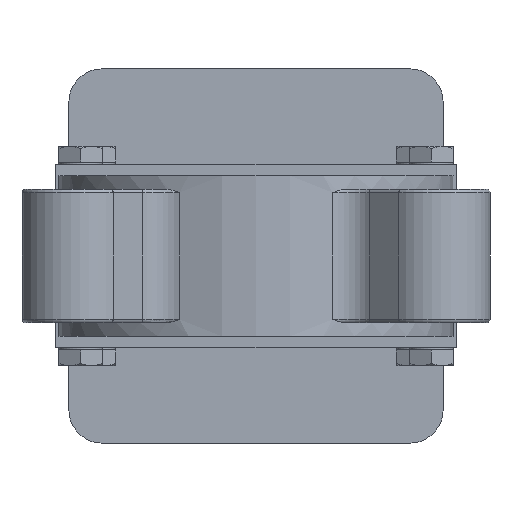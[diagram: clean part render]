
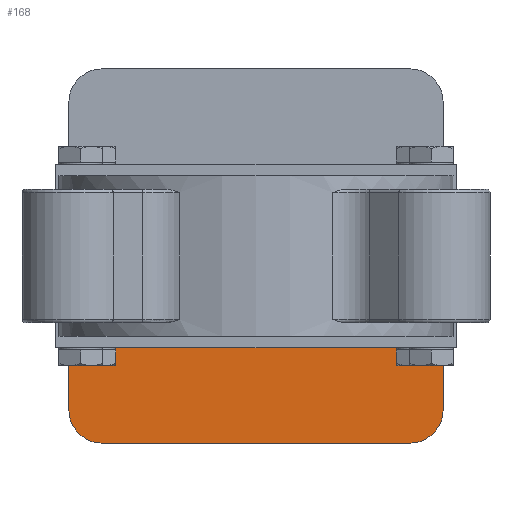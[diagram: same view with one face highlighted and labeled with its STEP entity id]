
A CAD part, front view. The second image highlights one B-rep face of the part: STEP entity #168.
In plain terms, the highlighted planar face has unit normal (0, -1, 0).
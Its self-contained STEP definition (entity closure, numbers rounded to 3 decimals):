
#168=ADVANCED_FACE('',(#6267),#6269,.F.);
#6267=FACE_BOUND('',#6268,.T.);
#6268=EDGE_LOOP('',(#11121,#11122,#11123,#11124,#11125,#11126));
#6269=PLANE('',#6270);
#6270=AXIS2_PLACEMENT_3D('',#6271,#6272,#6273);
#6271=CARTESIAN_POINT('',(0.,261.,0.));
#6272=DIRECTION('',(0.,1.,0.));
#6273=DIRECTION('',(0.,0.,1.));
#11121=ORIENTED_EDGE('',*,*,#14907,.T.);
#11122=ORIENTED_EDGE('',*,*,#14961,.F.);
#11123=ORIENTED_EDGE('',*,*,#14962,.F.);
#11124=ORIENTED_EDGE('',*,*,#14963,.F.);
#11125=ORIENTED_EDGE('',*,*,#14964,.F.);
#11126=ORIENTED_EDGE('',*,*,#14965,.F.);
#14907=EDGE_CURVE('',#16610,#16611,#16612,.T.);
#14961=EDGE_CURVE('',#16718,#16611,#16719,.T.);
#14962=EDGE_CURVE('',#16720,#16718,#16721,.F.);
#14963=EDGE_CURVE('',#16722,#16720,#16723,.T.);
#14964=EDGE_CURVE('',#16724,#16722,#16725,.F.);
#14965=EDGE_CURVE('',#16610,#16724,#16726,.T.);
#16610=VERTEX_POINT('',#19421);
#16611=VERTEX_POINT('',#19422);
#16612=LINE('',#19423,#19424);
#16718=VERTEX_POINT('',#19665);
#16719=LINE('',#19666,#19667);
#16720=VERTEX_POINT('',#19669);
#16721=CIRCLE('',#19670,10.);
#16722=VERTEX_POINT('',#19674);
#16723=LINE('',#19675,#19676);
#16724=VERTEX_POINT('',#19678);
#16725=CIRCLE('',#19679,10.);
#16726=LINE('',#19683,#19684);
#19421=CARTESIAN_POINT('',(56.,261.,-27.5));
#19422=CARTESIAN_POINT('',(-56.,261.,-27.5));
#19423=CARTESIAN_POINT('',(56.,261.,-27.5));
#19424=VECTOR('',#19425,1.);
#19425=DIRECTION('',(-1.,0.,0.));
#19665=CARTESIAN_POINT('',(-56.,261.,-46.));
#19666=CARTESIAN_POINT('',(-56.,261.,-46.));
#19667=VECTOR('',#19668,1.);
#19668=DIRECTION('',(0.,0.,1.));
#19669=CARTESIAN_POINT('',(-46.,261.,-56.));
#19670=AXIS2_PLACEMENT_3D('',#19671,#19672,#19673);
#19671=CARTESIAN_POINT('',(-46.,261.,-46.));
#19672=DIRECTION('',(0.,-1.,0.));
#19673=DIRECTION('',(-1.,0.,0.));
#19674=CARTESIAN_POINT('',(46.,261.,-56.));
#19675=CARTESIAN_POINT('',(46.,261.,-56.));
#19676=VECTOR('',#19677,1.);
#19677=DIRECTION('',(-1.,0.,0.));
#19678=CARTESIAN_POINT('',(56.,261.,-46.));
#19679=AXIS2_PLACEMENT_3D('',#19680,#19681,#19682);
#19680=CARTESIAN_POINT('',(46.,261.,-46.));
#19681=DIRECTION('',(0.,-1.,0.));
#19682=DIRECTION('',(0.,0.,-1.));
#19683=CARTESIAN_POINT('',(56.,261.,-27.5));
#19684=VECTOR('',#19685,1.);
#19685=DIRECTION('',(0.,0.,-1.));
